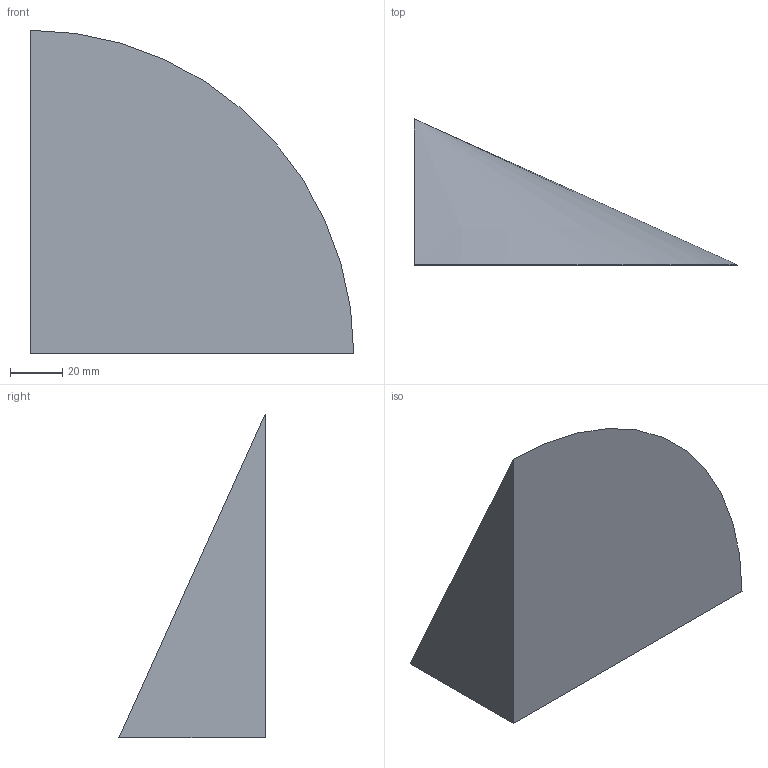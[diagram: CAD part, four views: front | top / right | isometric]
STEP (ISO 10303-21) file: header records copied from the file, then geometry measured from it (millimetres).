
FILE_DESCRIPTION(('CATIA V5 STEP Exchange'),'2;1');
FILE_NAME('C:\_Andres\UNIVERSIDAD\IQS\ASIGNATURAS\DAO\EXF\EXF-16172c\2inicio\Puig_Bataller_Ej07_v24.stp','2017-03-05T21:18:14+00:00',('none'),('none'),'CATIA Version 5-6 Release 2014 SP1 HF18','CATIA V5 STEP AP203','none');
FILE_SCHEMA(('CONFIG_CONTROL_DESIGN'));
Length unit declared in the file: millimetre
Products named in the file (1): Puig_Bataller_Ej07_v24
Bounding box: 124 x 56 x 124 mm (x, y, z)
Volume: 225423.9 mm3; surface area: 32271 mm2
Topology: 1 solids, 1 shells, 4 faces, 7 edges, 4 vertices
Faces by surface type: plane 3, cone 1
Entity records: 131 total; most frequent: CARTESIAN_POINT 15, DIRECTION 14, ORIENTED_EDGE 12, AXIS2_PLACEMENT_3D 6, EDGE_CURVE 6, VECTOR 5, LINE 5, ADVANCED_FACE 4
